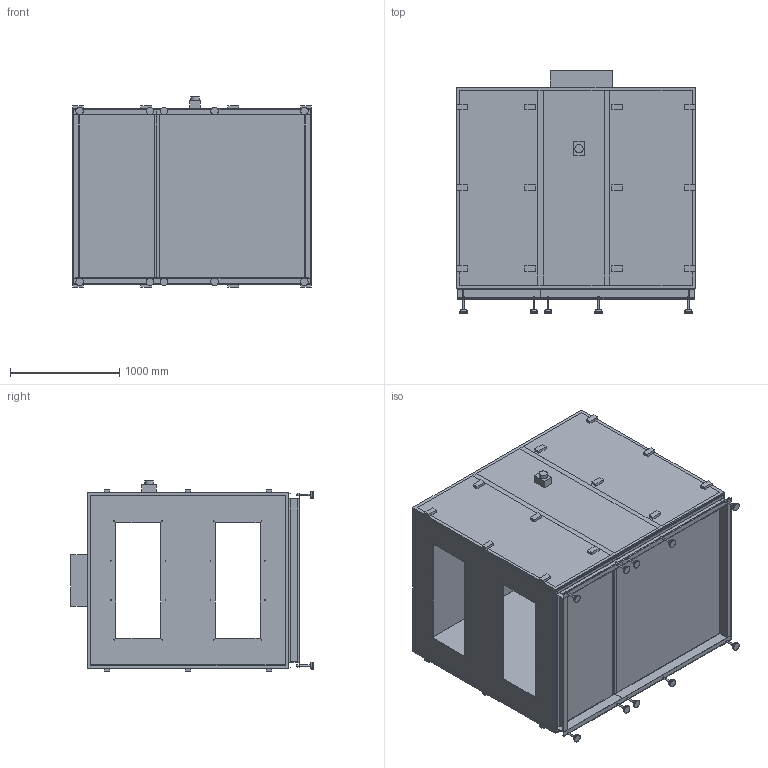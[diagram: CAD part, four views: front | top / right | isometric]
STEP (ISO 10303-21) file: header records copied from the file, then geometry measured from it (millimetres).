
FILE_DESCRIPTION(/* description */ (''),/* implementation_level */ '2;1');
FILE_NAME(/* name */ 'Z:\Output\AIR1_RH_8000-04348-001.stp',/* time_stamp */ '2020-10-09T15:01:52+02:00',/* author */ ('engineering2'),/* organization */ (''),/* preprocessor_version */ 'ST-DEVELOPER v17.2',/* originating_system */ 'Autodesk Inventor 2019',/* authorisation */ '');
FILE_SCHEMA (('AUTOMOTIVE_DESIGN { 1 0 10303 214 3 1 1 }'));
Length unit declared in the file: millimetre
Products named in the file (1): 04345-001_AIR1 RH 3000
Bounding box: 2185 x 2215 x 1741 mm (x, y, z)
Volume: 338355467.6 mm3; surface area: 41617609.4 mm2
Topology: 25 solids, 25 shells, 412 faces, 1003 edges, 683 vertices
Faces by surface type: plane 319, cylinder 63, torus 20, cone 10
Full cylindrical faces by diameter (mm): 6.647 x32, 16 x20, 70 x10, 75 x1
Entity records: 12280 total; most frequent: CARTESIAN_POINT 2099, DIRECTION 2081, ORIENTED_EDGE 2006, EDGE_CURVE 1003, LINE 751, VECTOR 751, VERTEX_POINT 683, AXIS2_PLACEMENT_3D 665
